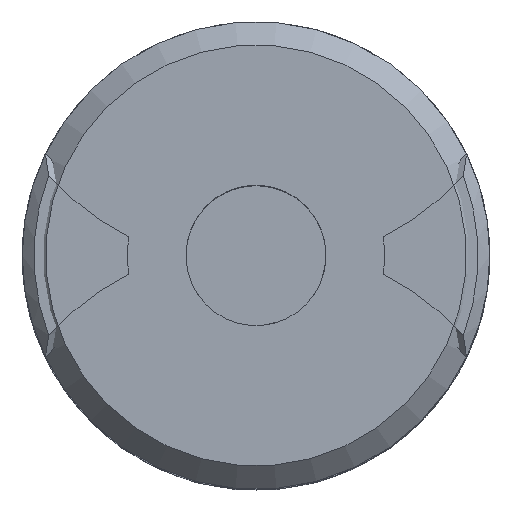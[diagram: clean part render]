
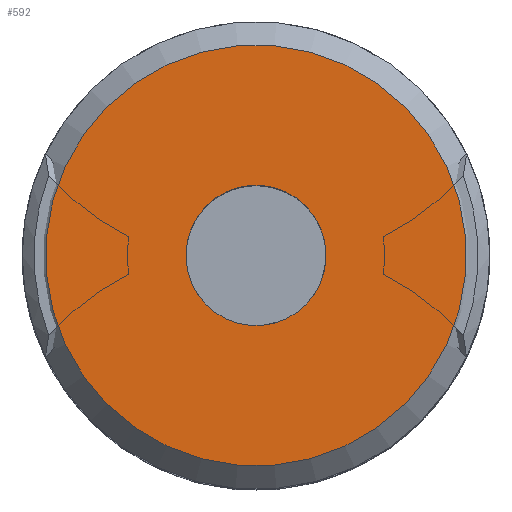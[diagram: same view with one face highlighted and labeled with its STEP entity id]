
A CAD part, top view. The second image highlights one B-rep face of the part: STEP entity #592.
In plain terms, the highlighted planar face has unit normal (0, 0, 1) as drawn and (0, 0, -1) by its records, which use the part's own axes.
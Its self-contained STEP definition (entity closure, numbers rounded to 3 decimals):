
#592 = ADVANCED_FACE( '', ( #1069, #1070 ), #1071, .T. );
#1069 = FACE_OUTER_BOUND( '', #1298, .T. );
#1070 = FACE_BOUND( '', #1299, .T. );
#1071 = PLANE( '', #1300 );
#1298 = EDGE_LOOP( '', ( #1695 ) );
#1299 = EDGE_LOOP( '', ( #1696 ) );
#1300 = AXIS2_PLACEMENT_3D( '', #1697, #1698, #1699 );
#1695 = ORIENTED_EDGE( '', *, *, #2204, .T. );
#1696 = ORIENTED_EDGE( '', *, *, #2162, .T. );
#1697 = CARTESIAN_POINT( '', ( 0., 0., 0. ) );
#1698 = DIRECTION( '', ( 0., 0., -1. ) );
#1699 = DIRECTION( '', ( -1., 0., 0. ) );
#2162 = EDGE_CURVE( '', #2439, #2439, #2440, .T. );
#2204 = EDGE_CURVE( '', #2510, #2510, #2511, .T. );
#2439 = VERTEX_POINT( '', #2600 );
#2440 = CIRCLE( '', #2601, 3. );
#2510 = VERTEX_POINT( '', #2777 );
#2511 = CIRCLE( '', #2778, 9. );
#2600 = CARTESIAN_POINT( '', ( 3., 0., 0. ) );
#2601 = AXIS2_PLACEMENT_3D( '', #2816, #2817, #2818 );
#2777 = CARTESIAN_POINT( '', ( -9., 0., 0. ) );
#2778 = AXIS2_PLACEMENT_3D( '', #2900, #2901, #2902 );
#2816 = CARTESIAN_POINT( '', ( 0., 0., 0. ) );
#2817 = DIRECTION( '', ( 0., 0., 1. ) );
#2818 = DIRECTION( '', ( 1., 0., 0. ) );
#2900 = CARTESIAN_POINT( '', ( 0., 0., 0. ) );
#2901 = DIRECTION( '', ( 0., 0., -1. ) );
#2902 = DIRECTION( '', ( -1., 0., 0. ) );
